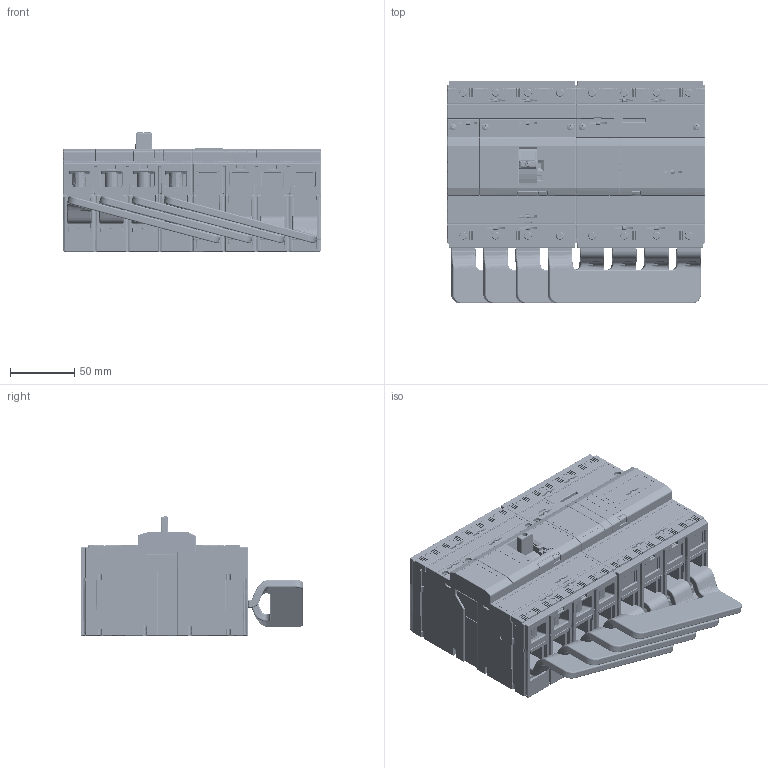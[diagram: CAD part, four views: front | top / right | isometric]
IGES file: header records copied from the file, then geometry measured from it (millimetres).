
Start section: SolidWorks IGES file using analytic representation for surfaces
Global section: file name: U:\14_RD\05_Technical_office\04_Office\Hrdinova\3D modely - IGES\Modeion\BC160NT405_406__RCD-BC0_P.IGS; native system: SolidWorks 2011; preprocessor: SolidWorks 2011; author: adhrja3; date: 170615.143914; units: millimetre
Bounding box: 200 x 173 x 92.5 mm (x, y, z)
Surface area: 357725.5 mm2 (no closed solid volume)
Topology: 0 solids, 0 shells, 11726 faces, 94748 edges, 94625 vertices
Faces by surface type: bspline 7422, revolution 4304
